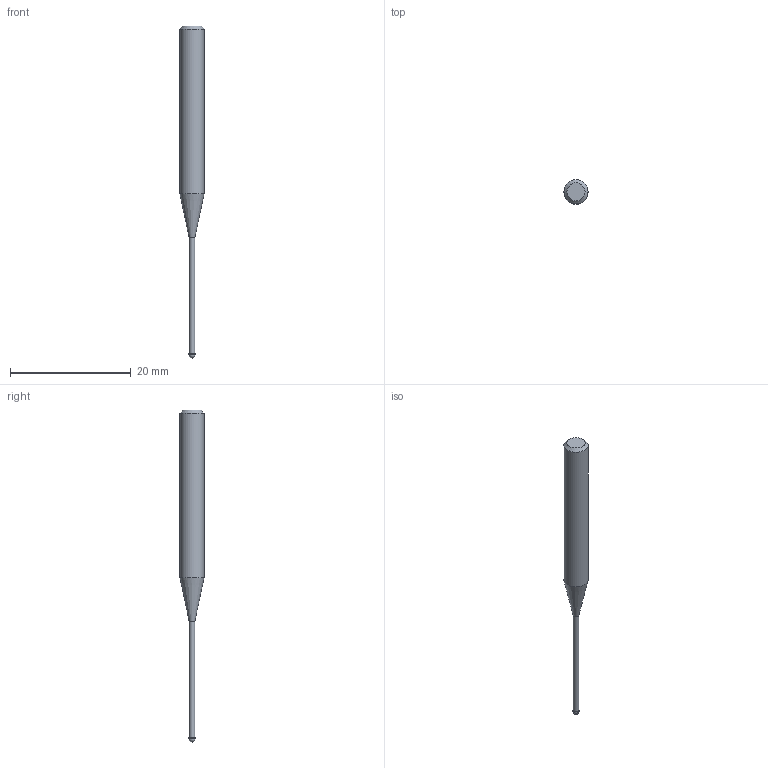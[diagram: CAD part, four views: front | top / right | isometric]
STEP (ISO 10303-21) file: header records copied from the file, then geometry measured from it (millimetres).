
FILE_DESCRIPTION((''),'2;1');
FILE_NAME('C:\Users\nsx150\AppData\Local\Temp\Mastercam 2021\3SYKECWX22\TEMP.step','2021-04-22T10:02:35',(''),(''),'STEP Write','Mastercam 2021 ... CNC Software, Inc.','');
FILE_SCHEMA(('AUTOMOTIVE_DESIGN'));
Length unit declared in the file: millimetre
Products named in the file (1): None
Bounding box: 4 x 4 x 55 mm (x, y, z)
Volume: 401.2 mm3; surface area: 476.6 mm2
Topology: 2 solids, 2 shells, 9 faces, 14 edges, 8 vertices
Faces by surface type: plane 3, cylinder 3, cone 2, sphere 1
Full cylindrical faces by diameter (mm): 0.95 x1, 1 x1, 4 x1
Entity records: 211 total; most frequent: DIRECTION 36, CARTESIAN_POINT 25, AXIS2_PLACEMENT_3D 18, ORIENTED_EDGE 14, EDGE_LOOP 14, STYLED_ITEM 12, ADVANCED_FACE 9, FACE_BOUND 8
